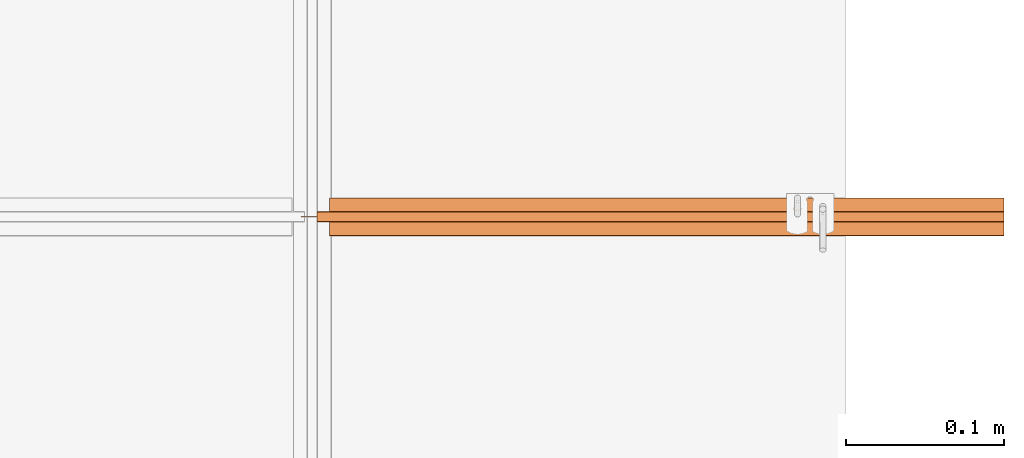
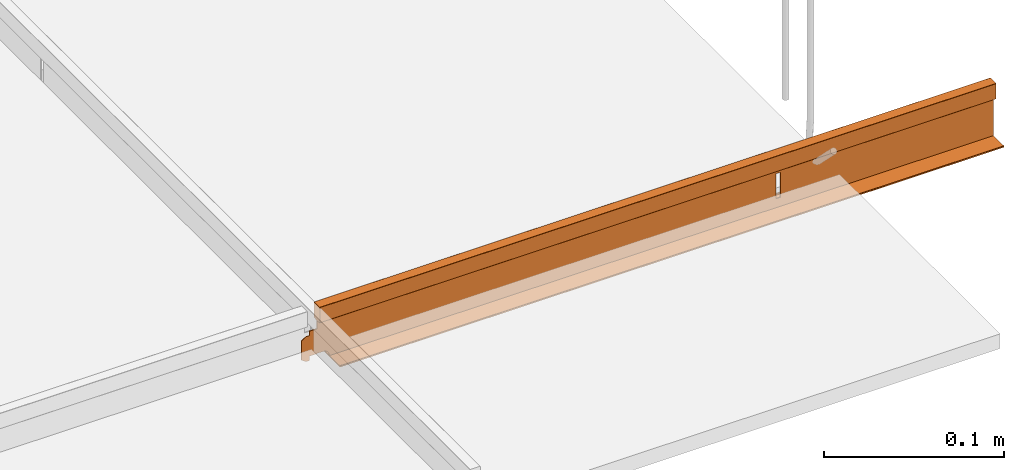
# One storey, part 79 of 79: 1 proxy.
"""IFC2X3 building model written with IfcOpenShell, lengths in millimetres."""

from ifc_helpers import new_model, entity, si_unit, converted_unit, direction, frame, origin, origin_with_axes, place, context, project, spatial, faceted_brep, element, save


model = new_model("IFC2X3")

# Units and contexts
model_context = context("Model", 3, precision=1e-05, world=origin(), true_north=direction((0.0, 1.0, 0.0)))
ifc_project = project(units=[si_unit("LENGTHUNIT", "METRE", prefix="MILLI"), si_unit("AREAUNIT", "SQUARE_METRE"), si_unit("VOLUMEUNIT", "CUBIC_METRE"), converted_unit("PLANEANGLEUNIT", "DEGREE", entity("IfcPlaneAngleMeasure", 0.01745), si_unit("PLANEANGLEUNIT", "RADIAN"), dimensions=[0, 0, 0, 0, 0, 0, 0]), si_unit("SOLIDANGLEUNIT", "STERADIAN"), si_unit("MASSUNIT", "GRAM"), si_unit("TIMEUNIT", "SECOND"), si_unit("THERMODYNAMICTEMPERATUREUNIT", "DEGREE_CELSIUS"), si_unit("LUMINOUSINTENSITYUNIT", "LUMEN")], contexts=[model_context])

# Site, building, storey
site_placement = place(None, origin_with_axes())
site = spatial("IfcSite", under=ifc_project, at=site_placement, Name="Default Site", CompositionType="ELEMENT")
building_placement = place(site_placement, origin_with_axes())
building = spatial("IfcBuilding", under=site, at=building_placement, Name="Default Building", CompositionType="ELEMENT")
storey_placement = place(building_placement, origin_with_axes())
storey = spatial("IfcBuildingStorey", under=building, at=storey_placement, Name="Default Building Storey", CompositionType="ELEMENT", Elevation=0.0)

# Proxy
proxy_placement = place(storey_placement, frame((3148.990618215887, 1006.670922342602, 980.285217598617), z_axis=(0.0, 0.0, 1.0), x_axis=(1.0, 0.0, 0.0)))
element("IfcBuildingElementProxy", 1, at=proxy_placement, inside=storey, Name="Profil poprzeczny RIGIPS T24", context=model_context, shape_type="Brep", body=[
    faceted_brep([(444.0500000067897, 0.0, 0.8999999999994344), (444.0500000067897, 0.1000000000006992, 1.000000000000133), (17.82522644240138, 0.1000000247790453, 1.000000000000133), (17.82522644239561, 2.477888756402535e-08, 0.8999999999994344), (444.0500000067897, 23.00000000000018, 0.5000000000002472), (444.0500000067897, 1.000000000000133, 0.5000000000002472), (444.0500000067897, 1.000000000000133, 0.800000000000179), (444.0500000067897, 1.000000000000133, 1.000000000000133), (444.0500000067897, 0.0, 0.1000000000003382), (444.0500000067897, 0.004894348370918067, 0.06909830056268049), (444.0500000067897, 0.01909830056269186, 0.04122147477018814), (444.0500000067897, 0.041221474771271, 0.01909830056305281), (444.0500000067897, 0.06909830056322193, 0.004894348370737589), (444.0500000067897, 0.1000000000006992, 0.0), (444.0500000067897, 23.90000000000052, 7.219114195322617e-13), (444.0500000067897, 23.930901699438, 0.0048943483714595), (444.0500000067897, 23.95877852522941, 0.01909830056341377), (444.0500000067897, 23.9809016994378, 0.04122147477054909), (444.0500000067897, 23.99510565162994, 0.06909830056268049), (444.0500000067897, 23.99999999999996, 0.1000000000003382), (444.0500000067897, 23.99999999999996, 0.8999999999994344), (444.0500000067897, 23.99510565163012, 0.930901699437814), (444.0500000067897, 23.98090169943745, 0.9587785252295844), (444.0500000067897, 23.95877852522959, 0.9809016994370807), (444.0500000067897, 23.930901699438, 0.995105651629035), (444.0500000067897, 23.90000000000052, 0.9999999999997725), (444.0500000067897, 23.00000000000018, 1.000000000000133), (444.0500000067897, 23.00000000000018, 0.800000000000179), (17.82522644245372, 1.000000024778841, 1.000000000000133), (17.82522644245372, 1.000000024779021, 0.800000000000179), (17.82522644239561, 0.004894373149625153, 0.06909830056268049), (17.82522644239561, 2.477888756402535e-08, 0.1000000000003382), (17.82522644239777, 0.04122149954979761, 0.01909830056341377), (17.82522644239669, 0.01909832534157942, 0.04122147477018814), (17.82522644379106, 24.00000002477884, 0.1000000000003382), (17.82522644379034, 23.99510567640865, 0.06909830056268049), (17.82522644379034, 23.99510567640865, 0.930901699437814), (17.8252264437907, 24.00000002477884, 0.8999999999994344), (17.82522644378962, 23.98090172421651, 0.9587785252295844), (17.82522644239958, 0.06909832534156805, 0.004894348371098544), (17.82522644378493, 23.90000002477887, 3.609557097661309e-13), (17.82522644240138, 0.1000000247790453, 3.609557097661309e-13), (17.82522644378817, 23.95877855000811, 0.9809016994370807), (17.82522644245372, 1.000000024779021, 0.5000000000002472), (17.82522644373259, 23.00000002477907, 0.5000000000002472), (17.8252264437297, 23.00000002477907, 0.800000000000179), (17.82522644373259, 23.00000002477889, 1.000000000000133), (17.82522644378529, 23.90000002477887, 1.000000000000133), (17.82522644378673, 23.93090172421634, 0.9951056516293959), (17.82522644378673, 23.93090172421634, 0.004894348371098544), (17.82522644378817, 23.95877855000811, 0.01909830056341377), (17.82522644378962, 23.98090172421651, 0.04122147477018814), (2.92374124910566e-11, 12.25000002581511, 3.830574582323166), (0.0, 11.75000002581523, 3.830574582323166), (0.0, 11.75000002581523, 16.83057458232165), (2.92374124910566e-11, 12.25000002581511, 16.8305745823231), (3.00000000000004, 11.75000002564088, 18.83057458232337), (3.000000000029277, 12.25000002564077, 18.83057458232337), (5.000000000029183, 12.25000002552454, 21.8305745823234), (4.999999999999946, 11.75000002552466, 21.8305745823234), (9.999999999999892, 11.75000002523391, 21.8305745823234), (10.00000000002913, 12.25000002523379, 21.8305745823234), (4.999999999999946, 11.75000002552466, 18.83057458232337), (5.000000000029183, 12.25000002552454, 18.83057458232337), (10.00000000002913, 12.25000002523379, 4.830574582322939), (9.999999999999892, 11.75000002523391, 4.830574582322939), (4.999999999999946, 11.75000002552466, 4.830574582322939), (5.000000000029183, 12.25000002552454, 4.830574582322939), (5.000000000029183, 12.25000002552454, 1.830574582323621), (4.999999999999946, 11.75000002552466, 1.830574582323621), (3.00000000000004, 11.75000002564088, 1.830574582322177), (3.000000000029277, 12.25000002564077, 1.830574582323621), (9.999999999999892, 11.75000002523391, 5.005348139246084), (10.00000000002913, 12.25000002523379, 5.005348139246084), (9.999999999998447, 11.71921061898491, 26.93719435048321), (444.0500000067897, 11.71921059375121, 26.93719435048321), (444.0500000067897, 11.70260399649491, 26.95984956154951), (9.999999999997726, 11.70260402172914, 26.95984956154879), (17.82522644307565, 11.7500000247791, 0.800000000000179), (444.0500000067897, 11.7500000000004, 0.800000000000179), (444.0500000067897, 11.7500000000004, 4.354360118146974), (307.5000000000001, 11.75000000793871, 6.830574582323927), (304.5000000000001, 11.75000000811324, 6.830574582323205), (304.5000000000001, 11.75000000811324, 23.83057458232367), (307.5000000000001, 11.75000000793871, 23.83057458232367), (444.0500000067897, 11.7500000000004, 13.55416379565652), (444.0500000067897, 11.7500000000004, 26.83057458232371), (9.999999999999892, 11.75000002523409, 26.83057458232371), (13.82522644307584, 11.75000002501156, 5.005348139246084), (14.45096430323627, 11.75000002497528, 4.956101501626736), (15.06129442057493, 11.75000002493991, 4.809574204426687), (15.64118844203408, 11.75000002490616, 4.569374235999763), (16.17636745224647, 11.75000002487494, 4.241416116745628), (16.65365356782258, 11.75000002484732, 3.833775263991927), (17.06129442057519, 11.7500000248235, 3.356489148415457), (17.38925253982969, 11.75000002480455, 2.821310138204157), (17.62945250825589, 11.75000002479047, 2.241416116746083), (17.77597980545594, 11.75000002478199, 1.631085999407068), (17.82522644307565, 11.7500000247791, 1.005348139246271), (10.00000000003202, 12.29739602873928, 26.95984956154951), (444.0500000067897, 12.29739600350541, 26.95984956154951), (444.0500000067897, 12.2807894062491, 26.93719435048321), (10.00000000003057, 12.28078943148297, 26.93719435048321), (10.00000000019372, 15.08287982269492, 27.47214663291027), (444.0500000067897, 15.08287979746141, 27.47214663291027), (444.0500000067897, 12.41712020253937, 27.02785336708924), (10.00000000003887, 12.41712022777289, 27.02785336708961), (13.82522644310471, 12.25000002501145, 5.005348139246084), (14.45096430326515, 12.25000002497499, 4.956101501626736), (15.06129442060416, 12.25000002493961, 4.809574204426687), (304.5000000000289, 12.2500000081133, 6.830574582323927), (307.500000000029, 12.25000000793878, 6.830574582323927), (307.500000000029, 12.25000000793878, 23.83057458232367), (444.0500000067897, 12.2500000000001, 25.22157628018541), (444.0500000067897, 12.25000000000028, 0.800000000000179), (17.82522644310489, 12.25000002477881, 0.800000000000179), (17.82522644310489, 12.25000002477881, 1.005348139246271), (17.77597980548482, 12.2500000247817, 1.631085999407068), (17.62945250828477, 12.25000002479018, 2.241416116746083), (17.38925253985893, 12.25000002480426, 2.821310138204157), (17.06129442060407, 12.25000002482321, 3.356489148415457), (16.65365356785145, 12.25000002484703, 3.833775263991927), (16.17636745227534, 12.25000002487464, 4.241416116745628), (15.64118844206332, 12.25000002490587, 4.569374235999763), (10.00000000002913, 12.25000002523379, 26.83057458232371), (304.5000000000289, 12.2500000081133, 23.83057458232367), (9.999999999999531, 11.74214855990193, 26.88606278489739), (444.0500000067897, 11.74214853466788, 26.88606278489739), (444.0500000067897, 11.73247935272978, 26.91243596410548), (9.999999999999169, 11.73247937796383, 26.91243596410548), (10.00000000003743, 12.38980530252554, 27.0213010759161), (444.0500000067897, 12.38980527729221, 27.02130107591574), (444.0500000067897, 12.36367774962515, 27.01098652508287), (10.00000000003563, 12.36367777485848, 27.01098652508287), (10.00000000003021, 12.26752067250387, 26.91243596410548), (10.00000000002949, 12.25785149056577, 26.88606278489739), (10.00000000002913, 12.25197261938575, 26.85859504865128), (9.999999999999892, 11.74802743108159, 26.85859504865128), (10.00000000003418, 12.33925303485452, 26.9971131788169), (444.0500000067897, 12.33925300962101, 26.9971131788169), (444.0500000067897, 12.31701285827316, 26.97995470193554), (10.0000000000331, 12.31701288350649, 26.97995470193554), (10.00000000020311, 15.24214855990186, 27.61393721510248), (444.0500000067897, 15.24214853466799, 27.61393721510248), (444.0500000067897, 15.23247935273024, 27.58756403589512), (10.00000000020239, 15.23247937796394, 27.58756403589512), (444.0500000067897, 12.2578514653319, 26.88606278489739), (444.0500000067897, 12.25197259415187, 26.85859504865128), (444.0500000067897, 12.24999999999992, 26.83057458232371), (9.999999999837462, 8.950000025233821, 38.00000000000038), (10.00000000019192, 15.05000002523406, 38.00000000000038), (10.00000000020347, 15.25000002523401, 37.80000000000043), (10.00000000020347, 15.25000002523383, 27.66942541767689), (9.999999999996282, 11.68298716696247, 26.97995470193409), (9.999999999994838, 11.66074701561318, 26.9971131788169), (9.999999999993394, 11.63632227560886, 27.01098652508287), (9.99999999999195, 11.6101947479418, 27.0213010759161), (9.999999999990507, 11.58287982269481, 27.02785336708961), (9.999999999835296, 8.917120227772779, 27.47214663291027), (9.99999999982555, 8.750000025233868, 27.66942541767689), (9.99999999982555, 8.750000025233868, 37.80000000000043), (10.00000000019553, 15.11019474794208, 27.4786989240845), (444.0500000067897, 15.11019472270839, 27.4786989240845), (10.00000000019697, 15.13632227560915, 27.48901347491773), (444.0500000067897, 15.13632225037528, 27.48901347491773), (444.0500000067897, 15.05000000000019, 38.00000000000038), (444.0500000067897, 15.08128689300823, 37.99753766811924), (10.00000000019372, 15.08128691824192, 37.99753766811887), (444.0500000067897, 15.21921059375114, 27.56280564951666), (10.00000000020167, 15.21921061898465, 27.56280564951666), (444.0500000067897, 15.11180339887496, 37.99021130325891), (10.00000000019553, 15.11180342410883, 37.99021130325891), (444.0500000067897, 15.20260399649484, 27.54015043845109), (10.00000000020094, 15.20260402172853, 27.54015043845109), (10.0000000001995, 15.18298716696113, 27.52004529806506), (444.0500000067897, 15.1829871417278, 27.52004529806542), (444.0500000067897, 15.16074699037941, 27.5028868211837), (10.00000000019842, 15.1607470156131, 27.5028868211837), (444.0500000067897, 11.66074699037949, 26.99711317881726), (444.0500000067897, 11.63632225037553, 27.01098652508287), (444.0500000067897, 11.74802740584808, 26.85859504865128), (444.0500000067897, 11.61019472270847, 27.0213010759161), (444.0500000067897, 11.5828797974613, 27.02785336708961), (444.0500000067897, 11.6829871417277, 26.97995470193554), (9.999999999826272, 8.757851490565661, 27.61393721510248), (444.0500000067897, 8.75785146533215, 27.61393721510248), (444.0500000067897, 8.75197259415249, 27.64140495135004), (9.99999999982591, 8.751972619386, 27.64140495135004), (9.999999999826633, 8.767520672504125, 27.58756403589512), (444.0500000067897, 8.767520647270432, 27.58756403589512), (9.999999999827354, 8.780789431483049, 27.56280564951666), (444.0500000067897, 8.780789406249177, 27.56280564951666), (9.999999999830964, 8.839253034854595, 27.5028868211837), (444.0500000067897, 8.839253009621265, 27.50288682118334), (444.0500000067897, 8.817012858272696, 27.52004529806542), (9.99999999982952, 8.817012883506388, 27.52004529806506), (444.0500000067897, 8.797396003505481, 27.54015043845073), (9.999999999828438, 8.797396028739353, 27.54015043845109), (444.0500000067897, 12.26752064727, 26.91243596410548), (444.0500000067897, 8.917120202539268, 27.47214663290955), (444.0500000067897, 8.889805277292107, 27.47869892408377), (9.999999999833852, 8.889805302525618, 27.4786989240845), (444.0500000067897, 8.750000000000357, 27.66942541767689), (444.0500000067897, 8.750000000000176, 37.80000000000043), (444.0500000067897, 15.24999999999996, 27.66942541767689), (444.0500000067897, 15.24802740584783, 27.64140495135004), (10.00000000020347, 15.2480274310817, 27.64140495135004), (10.00000000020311, 15.24021132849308, 37.86180339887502), (444.0500000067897, 15.24021130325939, 37.86180339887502), (444.0500000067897, 15.24753766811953, 37.83128689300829), (10.00000000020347, 15.24753769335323, 37.83128689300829), (9.999999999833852, 8.888196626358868, 37.99021130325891), (444.0500000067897, 8.888196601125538, 37.99021130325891), (444.0500000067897, 8.91871310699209, 37.9975376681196), (9.999999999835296, 8.918713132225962, 37.99753766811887), (10.0000000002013, 15.21180342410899, 37.91755705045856), (444.0500000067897, 15.2118033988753, 37.91755705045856), (444.0500000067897, 15.22820130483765, 37.89079809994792), (10.00000000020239, 15.22820133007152, 37.89079809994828), (10.00000000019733, 15.14079812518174, 37.97820130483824), (444.0500000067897, 15.14079809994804, 37.97820130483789), (444.0500000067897, 15.16755705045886, 37.961803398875), (10.00000000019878, 15.16755707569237, 37.961803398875), (9.999999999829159, 8.808578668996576, 37.94142135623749), (444.0500000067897, 8.808578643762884, 37.94142135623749), (444.0500000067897, 8.832442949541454, 37.961803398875), (9.999999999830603, 8.832442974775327, 37.961803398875), (444.0500000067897, 15.25000000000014, 37.80000000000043), (9.999999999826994, 8.771798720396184, 37.89079809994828), (444.0500000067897, 8.771798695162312, 37.89079809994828), (444.0500000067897, 8.788196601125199, 37.91755705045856), (9.999999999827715, 8.788196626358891, 37.91755705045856), (444.0500000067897, 15.19142135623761, 37.94142135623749), (10.00000000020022, 15.19142138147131, 37.94142135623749), (9.999999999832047, 8.859201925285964, 37.97820130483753), (444.0500000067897, 8.859201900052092, 37.97820130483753), (444.0500000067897, 8.94999999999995, 38.00000000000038), (9.999999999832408, 8.863677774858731, 27.48901347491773), (444.0500000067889, 8.86367774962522, 27.48901347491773), (444.0500000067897, 8.752462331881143, 37.83128689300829), (9.99999999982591, 8.752462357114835, 37.83128689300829), (444.0500000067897, 8.75978869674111, 37.86180339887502), (9.999999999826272, 8.759788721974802, 37.86180339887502)], [[[0, 1, 2, 3]], [[4, 5, 6, 7, 1, 0, 8, 9, 10, 11, 12, 13, 14, 15, 16, 17, 18, 19, 20, 21, 22, 23, 24, 25, 26, 27]], [[28, 7, 6, 29]], [[30, 9, 8, 31]], [[32, 11, 10, 33]], [[34, 19, 18, 35]], [[36, 21, 20, 37]], [[38, 22, 21, 36]], [[39, 12, 11, 32]], [[2, 1, 7, 28]], [[33, 10, 9, 30]], [[40, 14, 13, 41]], [[42, 23, 22, 38]], [[37, 20, 19, 34]], [[37, 34, 40, 41, 31, 3, 2, 28, 29, 43, 44, 45, 46, 47]], [[47, 25, 24, 48]], [[49, 15, 14, 40]], [[31, 8, 0, 3]], [[48, 24, 23, 42]], [[46, 26, 25, 47]], [[45, 27, 26, 46]], [[50, 16, 15, 49]], [[41, 13, 12, 39]], [[51, 17, 16, 50]], [[35, 18, 17, 51]], [[52, 53, 54, 55]], [[55, 54, 56, 57]], [[58, 59, 60, 61]], [[57, 56, 62, 63]], [[63, 62, 59, 58]], [[64, 65, 66, 67]], [[68, 69, 70, 71]], [[67, 66, 69, 68]], [[71, 70, 53, 52]], [[72, 65, 64, 73]], [[74, 75, 76, 77]], [[78, 79, 80, 81, 82, 83, 84, 85, 86, 87, 60, 59, 62, 56, 54, 53, 70, 69, 66, 65, 72, 88, 89, 90, 91, 92, 93, 94, 95, 96, 97, 98]], [[99, 100, 101, 102]], [[103, 104, 105, 106]], [[72, 73, 107, 88]], [[89, 88, 107, 108]], [[108, 109, 90, 89]], [[110, 82, 81, 111]], [[4, 44, 43, 5]], [[112, 113, 114, 115, 116, 117, 118, 119, 120, 121, 122, 123, 109, 108, 107, 73, 64, 67, 68, 71, 52, 55, 57, 63, 58, 61, 124, 125, 110, 111]], [[120, 119, 95, 94]], [[122, 121, 93, 92]], [[126, 127, 128, 129]], [[5, 43, 29, 6]], [[125, 83, 82, 110]], [[130, 131, 132, 133]], [[111, 81, 84, 112]], [[134, 135, 136, 124, 61, 60, 87, 137, 126, 99, 102]], [[138, 139, 140, 141]], [[141, 126, 129]], [[81, 80, 85, 84]], [[29, 6, 79, 78]], [[142, 143, 144, 145]], [[117, 116, 98, 97]], [[97, 96, 118, 117]], [[133, 132, 139, 138]], [[95, 119, 118, 96]], [[92, 91, 123, 122]], [[94, 93, 121, 120]], [[90, 109, 123, 91]], [[98, 116, 115, 78]], [[135, 146, 147, 136]], [[112, 84, 83, 125]], [[141, 140, 100, 99]], [[106, 105, 131, 130]], [[27, 45, 44, 4]], [[124, 148, 113, 112, 125]], [[149, 150, 151, 152, 103, 106, 130, 133, 138, 141, 129, 74, 77, 153, 154, 155, 156, 157, 158, 159, 160]], [[43, 29, 78, 115, 45, 44]], [[161, 162, 104, 103]], [[163, 164, 162, 161]], [[150, 165, 166, 167]], [[145, 144, 168, 169]], [[167, 166, 170, 171]], [[169, 168, 172, 173]], [[174, 175, 176, 177]], [[177, 176, 164, 163]], [[154, 178, 179, 155]], [[87, 86, 180, 137]], [[156, 181, 182, 157]], [[136, 147, 148, 124]], [[153, 183, 178, 154]], [[184, 185, 186, 187]], [[155, 179, 181, 156]], [[188, 189, 185, 184]], [[190, 191, 189, 188]], [[137, 180, 127, 126]], [[129, 128, 75, 74]], [[192, 193, 194, 195]], [[195, 194, 196, 197]], [[197, 196, 191, 190]], [[134, 198, 146, 135]], [[102, 101, 198, 134]], [[158, 199, 200, 201]], [[157, 182, 199, 158]], [[115, 114, 27, 45]], [[159, 202, 203, 160]], [[152, 204, 205, 206]], [[207, 208, 209, 210]], [[211, 212, 213, 214]], [[215, 216, 217, 218]], [[219, 220, 221, 222]], [[223, 224, 225, 226]], [[151, 227, 204, 152]], [[206, 205, 143, 142]], [[228, 229, 230, 231]], [[222, 221, 232, 233]], [[210, 209, 227, 151]], [[77, 76, 183, 153]], [[171, 170, 220, 219]], [[234, 235, 212, 211]], [[226, 225, 235, 234]], [[173, 172, 175, 174]], [[149, 236, 165, 150]], [[237, 238, 193, 192]], [[160, 203, 239, 240]], [[218, 217, 208, 207]], [[240, 239, 241, 242]], [[214, 213, 236, 149]], [[233, 232, 216, 215]], [[242, 241, 229, 228]], [[231, 230, 224, 223]], [[201, 200, 238, 237]], [[187, 186, 202, 159]], [[224, 230, 229, 241, 239, 203, 202, 186, 185, 189, 191, 196, 194, 193, 238, 200, 199, 182, 181, 179, 178, 183, 76, 75, 128, 127, 180, 86, 85, 80, 79, 6, 5, 4, 27, 114, 113, 148, 147, 146, 198, 101, 100, 140, 139, 132, 131, 105, 104, 162, 164, 176, 175, 172, 168, 144, 143, 205, 204, 227, 209, 208, 217, 216, 232, 221, 220, 170, 166, 165, 236, 213, 212, 235, 225]]]),
])

save(model, "model.ifc")
